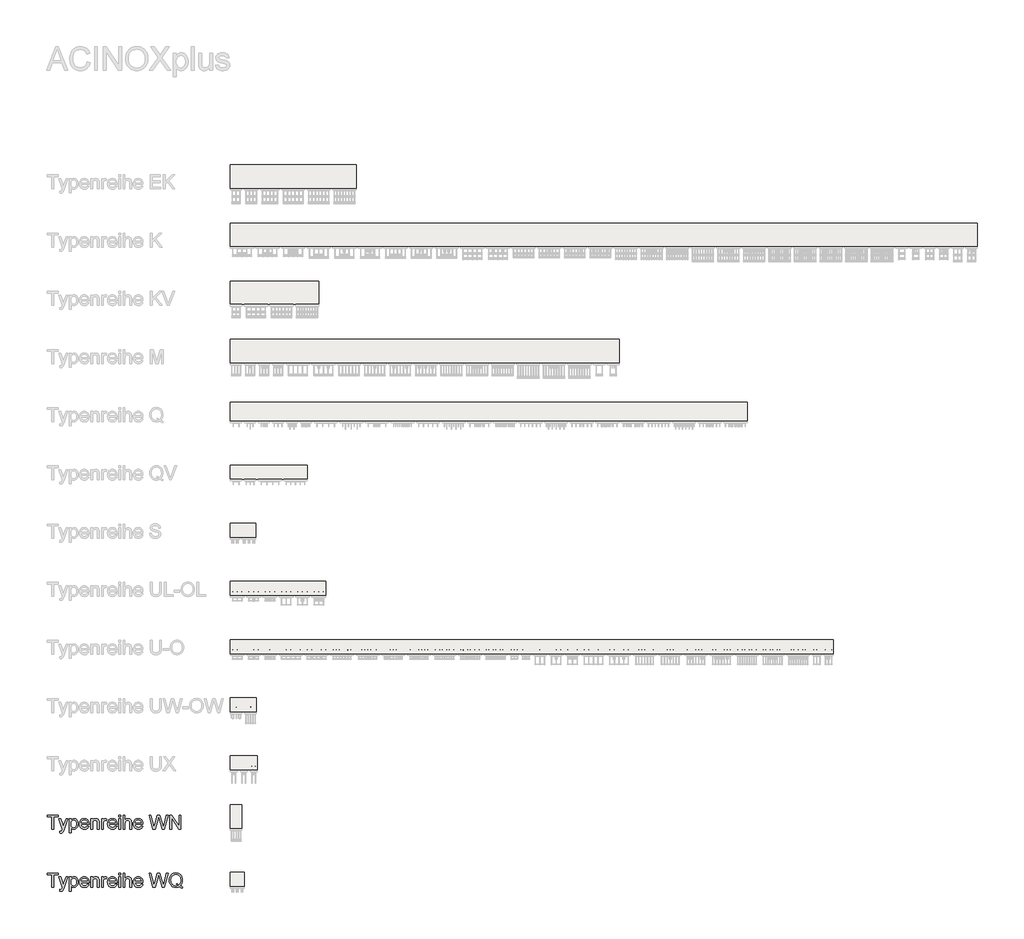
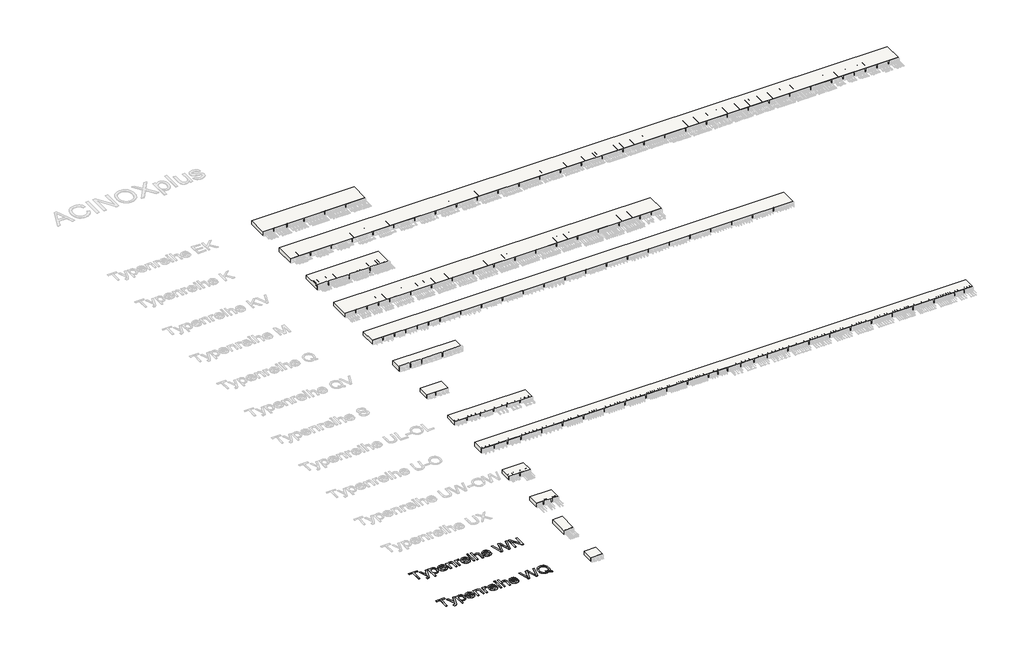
# Not in any storey, part 1 of 7: 13 slabs, 2 proxies.
"""IFC4 building model written with IfcOpenShell, lengths in millimetres."""

import ifcopenshell
import ifcopenshell.guid

model = None  # the IFC model being written
_history = None  # IfcOwnerHistory: only IFC2X3 demands one
_inside = {}  # id of a spatial element -> (the spatial element, [elements in it])
_under = {}  # id of a project, library or spatial element -> (it, [spatial elements below it])
_declared = {}  # id of a project -> (the project, [libraries it declares])
_typed = {}  # id of a type object -> (the type object, [elements of that type])
_made_of = {}  # id of a material, layer set ... -> (it, [elements and type objects made of it])


def new_model(schema):
    """Start an empty IFC model of exactly this schema.

    Asked for "IFC4X3", IfcOpenShell would pick the latest addendum, in which some entities
    have other attributes; the version numbers below select the first issue.
    IFC2X3 requires an IfcOwnerHistory on every rooted entity: one is made here for all.
    """
    global model, _history
    if schema == "IFC4X3":
        model = ifcopenshell.file(schema_version=(4, 3, 0, 0))
    else:
        model = ifcopenshell.file(schema=schema)
    _inside.clear()
    _under.clear()
    _declared.clear()
    _typed.clear()
    _made_of.clear()
    _history = None
    if model.schema == "IFC2X3":
        org = make("IfcOrganization", Name="unknown")
        user = make(
            "IfcPersonAndOrganization",
            ThePerson=make("IfcPerson", FamilyName="unknown"),
            TheOrganization=org,
        )
        app = make(
            "IfcApplication",
            ApplicationDeveloper=org,
            Version="unknown",
            ApplicationFullName="unknown",
            ApplicationIdentifier="unknown",
        )
        _history = make(
            "IfcOwnerHistory",
            OwningUser=user,
            OwningApplication=app,
            ChangeAction="ADDED",
            CreationDate=0,
        )
    return model


def make(cls, **values):
    """One entity of the class cls with the attributes given. An attribute that is None is left unset."""
    return model.create_entity(
        cls, **{name: value for name, value in values.items() if value is not None}
    )


def rooted(cls, **values):
    """An entity with a GlobalId (a new one), such as an element, a storey or a relation."""
    return make(cls, GlobalId=ifcopenshell.guid.new(), OwnerHistory=_history, **values)


def si_unit(unit_type, name, prefix=None):
    """IfcSIUnit, for example si_unit("LENGTHUNIT", "METRE", prefix="MILLI")."""
    return make("IfcSIUnit", UnitType=unit_type, Prefix=prefix, Name=name)


def assignment(units):
    """IfcUnitAssignment: the units of a project."""
    return None if units is None else make("IfcUnitAssignment", Units=units)


def point(xyz):
    """IfcCartesianPoint."""
    return None if xyz is None else make("IfcCartesianPoint", Coordinates=xyz)


def direction(xyz):
    """IfcDirection."""
    return None if xyz is None else make("IfcDirection", DirectionRatios=xyz)


def frame(location, z_axis=None, x_axis=None):
    """IfcAxis2Placement3D, a coordinate frame: its origin and axes. An axis left out is left unset."""
    return make(
        "IfcAxis2Placement3D",
        Location=point(location),
        Axis=direction(z_axis),
        RefDirection=direction(x_axis),
    )


def origin():
    """The frame at (0, 0, 0) with its axes left unset."""
    return frame((0.0, 0.0, 0.0))


def origin_with_axes():
    """The frame at (0, 0, 0) with the z axis (0, 0, 1) and the x axis (1, 0, 0) written out."""
    return frame((0.0, 0.0, 0.0), z_axis=(0.0, 0.0, 1.0), x_axis=(1.0, 0.0, 0.0))


def place(relative_to, where):
    """IfcLocalPlacement: puts the frame where relative to a parent placement (None: the world)."""
    return make(
        "IfcLocalPlacement", PlacementRelTo=relative_to, RelativePlacement=where
    )


def context(
    kind, dimensions, precision=None, world=None, true_north=None, identifier=None
):
    """IfcGeometricRepresentationContext, for example the 3D "Model" context."""
    return make(
        "IfcGeometricRepresentationContext",
        ContextIdentifier=identifier,
        ContextType=kind,
        CoordinateSpaceDimension=dimensions,
        Precision=precision,
        WorldCoordinateSystem=world,
        TrueNorth=true_north,
    )


def project(units=None, contexts=None):
    """IfcProject with its units and contexts."""
    return rooted(
        "IfcProject",
        Name="project",
        RepresentationContexts=contexts,
        UnitsInContext=assignment(units),
    )


def spatial(cls, under=None, at=None, **own):
    """A site, building, storey or space (cls), placed at a placement, below another one or the project."""
    s = rooted(cls, ObjectPlacement=at, **own)
    if under is not None:
        _under.setdefault(under.id(), (under, []))[1].append(s)
    return s


def polyline(points):
    """IfcPolyline through the points."""
    return make("IfcPolyline", Points=[point(p) for p in points])


def outline(outer, holes=None, kind="AREA"):
    """IfcArbitraryClosedProfileDef: a profile drawn as a closed curve; with holes, ...WithVoids."""
    if holes is None:
        return make("IfcArbitraryClosedProfileDef", ProfileType=kind, OuterCurve=outer)
    return make(
        "IfcArbitraryProfileDefWithVoids",
        ProfileType=kind,
        OuterCurve=outer,
        InnerCurves=holes,
    )


def extrude(swept, where, along, depth):
    """IfcExtrudedAreaSolid: the profile swept, set in the frame where, extruded along a direction by depth."""
    return make(
        "IfcExtrudedAreaSolid",
        SweptArea=swept,
        Position=where,
        ExtrudedDirection=direction(along),
        Depth=depth,
    )


def shape(context_of_items, identifier, shape_type, items):
    """IfcShapeRepresentation: the items that make up one representation, for example the "Body"."""
    return make(
        "IfcShapeRepresentation",
        ContextOfItems=context_of_items,
        RepresentationIdentifier=identifier,
        RepresentationType=shape_type,
        Items=items,
    )


def made_of(thing, what):
    """Note that an element or type object is made of a material, layer set ...; save() writes the relation."""
    if what is not None:
        _made_of.setdefault(what.id(), (what, []))[1].append(thing)
    return thing


def element(
    cls,
    number,
    at=None,
    inside=None,
    cuts=None,
    type_object=None,
    material=None,
    context=None,
    identifier="Body",
    shape_type=None,
    held_by="IfcProductDefinitionShape",
    body=None,
    shapes=None,
    **own,
):
    """One element of the class cls, such as IfcWall. Its Tag is "e" and its number.

    at: its placement. inside: the storey or other place that contains it. cuts: it is an
    opening in that element (IfcRelVoidsElement). A single representation is given by context,
    identifier, shape_type and body (its items); several are given by shapes. held_by: the class
    of the entity that holds the representations. save() writes the other relations.
    """
    e = rooted(cls, Tag="e%d" % number, ObjectPlacement=at, **own)
    if body is not None:
        shapes = [shape(context, identifier, shape_type, body)]
    if shapes is not None:
        e.Representation = make(held_by, Representations=shapes)
    if inside is not None:
        _inside.setdefault(inside.id(), (inside, []))[1].append(e)
    if cuts is not None:
        rooted(
            "IfcRelVoidsElement", RelatingBuildingElement=cuts, RelatedOpeningElement=e
        )
    if type_object is not None:
        _typed.setdefault(type_object.id(), (type_object, []))[1].append(e)
    return made_of(e, material)


def aggregate(whole, parts):
    """IfcRelAggregates: a whole, such as a stair, and the parts it consists of."""
    return rooted("IfcRelAggregates", RelatingObject=whole, RelatedObjects=parts)


def save(model, path):
    """Write the relations noted so far, then the file.

    IfcRelAggregates (storeys below a building ...), IfcRelContainedInSpatialStructure (elements
    in a storey), IfcRelDefinesByType, IfcRelAssociatesMaterial and IfcRelDeclares: one each for
    every whole, place, type object, material and project.
    """
    for whole, parts in _under.values():
        aggregate(whole, parts)
    for where, things in _inside.values():
        rooted(
            "IfcRelContainedInSpatialStructure",
            RelatedElements=things,
            RelatingStructure=where,
        )
    for kind, things in _typed.values():
        rooted("IfcRelDefinesByType", RelatedObjects=things, RelatingType=kind)
    for what, things in _made_of.values():
        rooted("IfcRelAssociatesMaterial", RelatedObjects=things, RelatingMaterial=what)
    for by, libraries in _declared.values():
        rooted("IfcRelDeclares", RelatingContext=by, RelatedDefinitions=libraries)
    model.write(path)


model = new_model("IFC4")

# Units and contexts
model_context = context("Model", 3, world=origin())
ifc_project = project(units=[si_unit("LENGTHUNIT", "METRE", prefix="MILLI")], contexts=[model_context])

# Site, building
site = spatial("IfcSite", under=ifc_project)
building = spatial("IfcBuilding", under=site)

# Proxies
placement = place(None, origin())
element("IfcBuildingElementProxy", 1, Name="600mm Arial", ObjectType="600mm Arial", at=placement, inside=building, context=model_context, shape_type="SweptSolid", body=[
    extrude(outline(polyline([(2216.6089188, 4553.4767112), (2216.6089188, 5080.8723395), (2018.8355582, 5080.8723395), (2018.8355582, 5156.2145721), (2489.724512, 5156.2145721), (2489.724512, 5080.8723395), (2291.9511514, 5080.8723395), (2291.9511514, 4553.4767112), (2216.6089188, 4553.4767112)])), origin_with_axes(), (0.0, 0.0, 1.0), 10.0),
    extrude(outline(polyline([(2565.0667446, 4383.9566879), (2555.6489655, 4456.5030173), (2593.908693, 4449.8811414), (2614.0318381, 4451.9596747), (2629.6668229, 4458.1952745), (2641.843717, 4468.1464825), (2651.5925899, 4481.3718402), (2672.1939816, 4536.8484451), (2678.0800935, 4555.095392), (2517.9778492, 4996.1123278), (2597.4403602, 4996.1123278), (2682.3475247, 4750.3671551), (2711.9252371, 4652.0690859), (2741.5029495, 4738.8892368), (2828.7645587, 4996.1123278), (2907.6384585, 4996.1123278), (2753.5694789, 4542.8817098), (2713.5439178, 4444.5836407), (2693.0528907, 4413.2033065), (2669.8395368, 4391.4614806), (2642.8737866, 4378.7695517), (2611.1255704, 4374.5389088), (2589.3101681, 4376.8933535), (2565.0667446, 4383.9566879)])), origin_with_axes(), (0.0, 0.0, 1.0), 10.0),
    extrude(outline(polyline([(2970.0312449, 4383.9566879), (2970.0312449, 4996.1123278), (3045.3734775, 4996.1123278), (3045.3734775, 4922.2416232), (3069.9479948, 4958.6803348), (3097.465568, 4984.707986), (3129.544878, 5000.3245767), (3167.8046055, 5005.5301069), (3194.080577, 5003.709091), (3218.7562618, 4998.2460434), (3241.83166, 4989.140964), (3263.3067714, 4976.3938529), (3282.7125467, 4960.3358038), (3299.5799362, 4941.2979105), (3313.9089399, 4919.2801731), (3325.6995578, 4894.2825916), (3341.4816954, 4838.7691985), (3346.7424079, 4778.1790339), (3340.8011137, 4713.7445024), (3333.3744959, 4684.079418), (3322.9772311, 4656.1157879), (3309.7518733, 4630.5847774), (3293.840977, 4608.2175521), (3275.2445422, 4589.014112), (3253.9625688, 4572.974457), (3231.0389219, 4560.3239149), (3207.5174669, 4551.2878134), (3183.3982036, 4545.8661525), (3158.681132, 4544.0589322), (3124.0450422, 4548.8965804), (3093.1245605, 4563.4095251), (3066.6554509, 4585.3168979), (3045.3734775, 4612.3378305), (3045.3734775, 4383.9566879), (2970.0312449, 4383.9566879)]), holes=[polyline([(3045.3734775, 4771.2628524), (3047.410624, 4734.9528995), (3053.5220637, 4703.7197181), (3063.7077964, 4677.5633082), (3077.9678223, 4656.4836699), (3095.1341159, 4640.2600739), (3114.0386519, 4628.671791), (3134.6814303, 4621.7188213), (3157.0624512, 4619.4011648), (3179.7653689, 4621.8015948), (3200.7852264, 4629.0028848), (3220.1220237, 4641.0050349), (3237.775761, 4657.8080451), (3252.4864423, 4679.6510385), (3262.9940717, 4706.7731386), (3269.2986494, 4739.1743453), (3271.4001753, 4776.8546587), (3269.3492332, 4812.8519119), (3263.1964068, 4844.029911), (3252.9416962, 4870.388656), (3238.5851014, 4891.9281468), (3221.377421, 4908.6667776), (3202.569454, 4920.6229424), (3182.1612004, 4927.7966413), (3160.15266, 4930.1878743), (3138.2130975, 4927.64489), (3117.570319, 4920.0159371), (3098.2243246, 4907.3010157), (3080.1751142, 4889.5001256), (3064.9493982, 4866.8523903), (3054.0738867, 4839.596933), (3047.5485798, 4807.7337537), (3045.3734775, 4771.2628524)])]), origin_with_axes(), (0.0, 0.0, 1.0), 10.0),
    extrude(outline(polyline([(3741.4062124, 4685.3256183), (3815.276917, 4675.9078392), (3803.9507501, 4646.3209298), (3788.6606546, 4620.2472934), (3769.4066307, 4597.68693), (3746.1886783, 4578.6398397), (3719.2459207, 4563.5106927), (3688.8174812, 4552.704159), (3654.9033597, 4546.2202389), (3617.5035564, 4544.0589322), (3570.7549519, 4547.7883359), (3529.101513, 4558.9765471), (3492.5432397, 4577.6235657), (3461.080132, 4603.7293918), (3435.7790478, 4636.5674584), (3417.7068448, 4675.4111985), (3406.863523, 4720.2606123), (3403.2490824, 4771.1156996), (3406.9003112, 4823.6952337), (3417.8539976, 4870.0391681), (3436.1101416, 4910.1475026), (3461.6687432, 4944.0202373), (3493.0490774, 4970.9308053), (3528.7704192, 4990.1526395), (3568.8327684, 5001.6857401), (3613.2361252, 5005.5301069), (3656.2093408, 5001.6949371), (3695.0714751, 4990.1894277), (3729.822528, 4971.0135787), (3760.4624997, 4944.1673901), (3785.4738769, 4910.3682318), (3803.3391463, 4870.3334737), (3814.0583079, 4824.0631157), (3817.6313618, 4771.557158), (3817.1899034, 4751.2500718), (3478.591315, 4751.2500718), (3482.9553152, 4721.1849158), (3491.6327317, 4694.853762), (3504.6235647, 4672.2566104), (3521.927814, 4653.3934611), (3542.5889866, 4638.5218315), (3565.6505892, 4627.8992389), (3591.1126218, 4621.5256833), (3618.9750844, 4619.4011648), (3659.0742218, 4623.3375021), (3692.845789, 4635.1465142), (3720.2897858, 4655.5639649), (3741.4062124, 4685.3256183)]), holes=[polyline([(3478.591315, 4826.5923045), (3742.2891292, 4826.5923045), (3732.0987979, 4866.3971363), (3723.3340094, 4882.0505152), (3712.1228056, 4894.8712028), (3691.5765961, 4910.3222466), (3668.1976953, 4921.3587064), (3641.9861032, 4927.9805823), (3612.9418197, 4930.1878743), (3586.4497175, 4928.4266392), (3562.1557102, 4923.1429341), (3540.0597979, 4914.3367588), (3520.1619805, 4902.0081135), (3503.4647364, 4886.7272151), (3490.9705442, 4869.0642808), (3482.6794037, 4849.0193106), (3478.591315, 4826.5923045)])]), origin_with_axes(), (0.0, 0.0, 1.0), 10.0),
    extrude(outline(polyline([(3892.9735944, 4553.4767112), (3892.9735944, 4996.1123278), (3968.315827, 4996.1123278), (3968.315827, 4934.3081526), (3994.490631, 4965.4677576), (4025.9261474, 4987.7246183), (4062.6223765, 5001.0787348), (4104.579318, 5005.5301069), (4141.7170054, 5001.9432575), (4175.7276959, 4991.1827091), (4204.0913977, 4974.5912311), (4224.2881192, 4953.5115928), (4237.9917236, 4927.9989764), (4246.8760737, 4898.1085643), (4250.8491993, 4825.2679293), (4250.8491993, 4553.4767112), (4175.5069667, 4553.4767112), (4175.5069667, 4815.1143862), (4173.3364629, 4854.0730895), (4166.8249516, 4881.7746037), (4154.8136044, 4901.6218374), (4136.1435932, 4917.0176989), (4112.2128694, 4926.8953304), (4084.4193847, 4930.1878743), (4061.5417231, 4928.3392673), (4040.2919394, 4922.7934462), (4020.6700334, 4913.5504111), (4002.6760053, 4900.6101619), (3987.6434273, 4882.5011707), (3976.9058716, 4857.7519094), (3970.4633381, 4826.3623782), (3968.315827, 4788.332577), (3968.315827, 4553.4767112), (3892.9735944, 4553.4767112)])), origin_with_axes(), (0.0, 0.0, 1.0), 10.0),
    extrude(outline(polyline([(4354.4447691, 4553.4767112), (4354.4447691, 4996.1123278), (4420.3692227, 4996.1123278), (4420.3692227, 4930.6293327), (4444.7230107, 4968.5947546), (4467.1638125, 4990.9619799), (4489.6781906, 5001.8880752), (4514.2527078, 5005.5301069), (4551.7766713, 4999.7175714), (4589.889246, 4982.2799648), (4564.7261176, 4914.7368305), (4538.2386139, 4926.3251133), (4511.7511103, 4930.1878743), (4489.2551263, 4926.4722661), (4469.1503752, 4915.3254417), (4452.9083851, 4897.5935295), (4442.000684, 4874.1226582), (4432.8404223, 4832.036958), (4429.7870017, 4786.125285), (4429.7870017, 4553.4767112), (4354.4447691, 4553.4767112)])), origin_with_axes(), (0.0, 0.0, 1.0), 10.0),
    extrude(outline(polyline([(4946.8819342, 4685.3256183), (5020.7526388, 4675.9078392), (5009.4264719, 4646.3209298), (4994.1363764, 4620.2472934), (4974.8823525, 4597.68693), (4951.6644001, 4578.6398397), (4924.7216425, 4563.5106927), (4894.293203, 4552.704159), (4860.3790815, 4546.2202389), (4822.9792782, 4544.0589322), (4776.2306737, 4547.7883359), (4734.5772347, 4558.9765471), (4698.0189615, 4577.6235657), (4666.5558538, 4603.7293918), (4641.2547696, 4636.5674584), (4623.1825666, 4675.4111985), (4612.3392448, 4720.2606123), (4608.7248042, 4771.1156996), (4612.376033, 4823.6952337), (4623.3297194, 4870.0391681), (4641.5858634, 4910.1475026), (4667.144465, 4944.0202373), (4698.5247992, 4970.9308053), (4734.246141, 4990.1526395), (4774.3084902, 5001.6857401), (4818.711847, 5005.5301069), (4861.6850626, 5001.6949371), (4900.5471969, 4990.1894277), (4935.2982498, 4971.0135787), (4965.9382215, 4944.1673901), (4990.9495987, 4910.3682318), (5008.8148681, 4870.3334737), (5019.5340297, 4824.0631157), (5023.1070836, 4771.557158), (5022.6656252, 4751.2500718), (4684.0670368, 4751.2500718), (4688.431037, 4721.1849158), (4697.1084535, 4694.853762), (4710.0992865, 4672.2566104), (4727.4035358, 4653.3934611), (4748.0647084, 4638.5218315), (4771.126311, 4627.8992389), (4796.5883436, 4621.5256833), (4824.4508062, 4619.4011648), (4864.5499436, 4623.3375021), (4898.3215108, 4635.1465142), (4925.7655076, 4655.5639649), (4946.8819342, 4685.3256183)]), holes=[polyline([(4684.0670368, 4826.5923045), (4947.764851, 4826.5923045), (4937.5745197, 4866.3971363), (4928.8097312, 4882.0505152), (4917.5985273, 4894.8712028), (4897.0523179, 4910.3222466), (4873.6734171, 4921.3587064), (4847.461825, 4927.9805823), (4818.4175414, 4930.1878743), (4791.9254393, 4928.4266392), (4767.631432, 4923.1429341), (4745.5355197, 4914.3367588), (4725.6377023, 4902.0081135), (4708.9404582, 4886.7272151), (4696.4462659, 4869.0642808), (4688.1551255, 4849.0193106), (4684.0670368, 4826.5923045)])]), origin_with_axes(), (0.0, 0.0, 1.0), 10.0),
    extrude(outline(polyline([(5098.4493162, 5080.8723395), (5098.4493162, 5156.2145721), (5173.7915488, 5156.2145721), (5173.7915488, 5080.8723395), (5098.4493162, 5080.8723395)])), origin_with_axes(), (0.0, 0.0, 1.0), 10.0),
    extrude(outline(polyline([(5098.4493162, 4553.4767112), (5098.4493162, 4996.1123278), (5173.7915488, 4996.1123278), (5173.7915488, 4553.4767112), (5098.4493162, 4553.4767112)])), origin_with_axes(), (0.0, 0.0, 1.0), 10.0),
    extrude(outline(polyline([(5286.8048977, 4553.4767112), (5286.8048977, 5156.2145721), (5362.1471303, 5156.2145721), (5362.1471303, 4934.6024582), (5389.8210534, 4965.6333045), (5420.8978849, 4987.7981947), (5455.3776249, 5001.0971289), (5493.2602734, 5005.5301069), (5538.7672762, 5000.6924587), (5577.8731323, 4986.179514), (5608.6648553, 4963.131707), (5629.2294588, 4932.6894719), (5640.8177417, 4890.861289), (5644.6805026, 4833.6556388), (5644.6805026, 4553.4767112), (5569.33827, 4553.4767112), (5569.33827, 4825.8565405), (5567.8391509, 4851.2955804), (5563.3417935, 4873.0190122), (5555.8461978, 4891.0268359), (5545.3523639, 4905.3190514), (5532.1086121, 4916.1991614), (5516.3632627, 4923.9706686), (5498.1163157, 4928.6335729), (5477.3677712, 4930.1878743), (5445.5275845, 4925.9940195), (5415.6371724, 4913.4124553), (5390.8787141, 4893.6571922), (5374.434389, 4867.9422407), (5365.218945, 4833.7660034), (5362.1471303, 4788.6268826), (5362.1471303, 4553.4767112), (5286.8048977, 4553.4767112)])), origin_with_axes(), (0.0, 0.0, 1.0), 10.0),
    extrude(outline(polyline([(6058.1798652, 4685.3256183), (6132.0505698, 4675.9078392), (6120.7244029, 4646.3209298), (6105.4343075, 4620.2472934), (6086.1802836, 4597.68693), (6062.9623311, 4578.6398397), (6036.0195735, 4563.5106927), (6005.591134, 4552.704159), (5971.6770126, 4546.2202389), (5934.2772092, 4544.0589322), (5887.5286047, 4547.7883359), (5845.8751658, 4558.9765471), (5809.3168925, 4577.6235657), (5777.8537849, 4603.7293918), (5752.5527007, 4636.5674584), (5734.4804976, 4675.4111985), (5723.6371758, 4720.2606123), (5720.0227352, 4771.1156996), (5723.673964, 4823.6952337), (5734.6276504, 4870.0391681), (5752.8837944, 4910.1475026), (5778.4423961, 4944.0202373), (5809.8227303, 4970.9308053), (5845.544072, 4990.1526395), (5885.6064213, 5001.6857401), (5930.0097781, 5005.5301069), (5972.9829936, 5001.6949371), (6011.8451279, 4990.1894277), (6046.5961809, 4971.0135787), (6077.2361525, 4944.1673901), (6102.2475297, 4910.3682318), (6120.1127991, 4870.3334737), (6130.8319607, 4824.0631157), (6134.4050146, 4771.557158), (6133.9635562, 4751.2500718), (5795.3649678, 4751.2500718), (5799.728968, 4721.1849158), (5808.4063846, 4694.853762), (5821.3972175, 4672.2566104), (5838.7014669, 4653.3934611), (5859.3626394, 4638.5218315), (5882.424242, 4627.8992389), (5907.8862746, 4621.5256833), (5935.7487372, 4619.4011648), (5975.8478747, 4623.3375021), (6009.6194418, 4635.1465142), (6037.0634387, 4655.5639649), (6058.1798652, 4685.3256183)]), holes=[polyline([(5795.3649678, 4826.5923045), (6059.062782, 4826.5923045), (6048.8724507, 4866.3971363), (6040.1076622, 4882.0505152), (6028.8964584, 4894.8712028), (6008.3502489, 4910.3222466), (5984.9713482, 4921.3587064), (5958.759756, 4927.9805823), (5929.7154725, 4930.1878743), (5903.2233703, 4928.4266392), (5878.929363, 4923.1429341), (5856.8334507, 4914.3367588), (5836.9356333, 4902.0081135), (5820.2383892, 4886.7272151), (5807.744197, 4869.0642808), (5799.4530565, 4849.0193106), (5795.3649678, 4826.5923045)])]), origin_with_axes(), (0.0, 0.0, 1.0), 10.0),
    extrude(outline(polyline([(6562.4725042, 4553.4767112), (6398.1028287, 5156.2145721), (6475.7995061, 5156.2145721), (6571.1545193, 4760.0792397), (6600.5850789, 4637.7952645), (6632.0757777, 4745.9525711), (6751.5638497, 5156.2145721), (6863.547129, 5156.2145721), (6950.3672799, 4858.8187672), (6987.5601496, 4748.4541687), (7014.9673583, 4637.7952645), (7043.5150011, 4756.5475726), (7139.752931, 5156.2145721), (7217.4496084, 5156.2145721), (7052.9327802, 4553.4767112), (6972.4401996, 4553.4767112), (6827.9361519, 5018.4795531), (6807.7762186, 5083.3739371), (6785.1146877, 5005.2358013), (6653.4129334, 4553.4767112), (6562.4725042, 4553.4767112)])), origin_with_axes(), (0.0, 0.0, 1.0), 10.0),
    extrude(outline(polyline([(7292.791841, 4553.4767112), (7292.791841, 5156.2145721), (7373.4315744, 5156.2145721), (7688.3385622, 4678.7037424), (7688.3385622, 5156.2145721), (7763.6807948, 5156.2145721), (7763.6807948, 4553.4767112), (7683.0410615, 4553.4767112), (7368.1340736, 5031.1346938), (7368.1340736, 4553.4767112), (7292.791841, 4553.4767112)])), origin_with_axes(), (0.0, 0.0, 1.0), 10.0),
])
element("IfcBuildingElementProxy", 2, Name="600mm Arial", ObjectType="600mm Arial", at=placement, inside=building, context=model_context, shape_type="SweptSolid", body=[
    extrude(outline(polyline([(2216.6089188, 2053.4767112), (2216.6089188, 2580.8723395), (2018.8355582, 2580.8723395), (2018.8355582, 2656.2145721), (2489.724512, 2656.2145721), (2489.724512, 2580.8723395), (2291.9511514, 2580.8723395), (2291.9511514, 2053.4767112), (2216.6089188, 2053.4767112)])), origin_with_axes(), (0.0, 0.0, 1.0), 10.0),
    extrude(outline(polyline([(2565.0667446, 1883.9566879), (2555.6489655, 1956.5030173), (2593.908693, 1949.8811414), (2614.0318381, 1951.9596747), (2629.6668229, 1958.1952745), (2641.843717, 1968.1464825), (2651.5925899, 1981.3718402), (2672.1939816, 2036.8484451), (2678.0800935, 2055.095392), (2517.9778492, 2496.1123278), (2597.4403602, 2496.1123278), (2682.3475247, 2250.3671551), (2711.9252371, 2152.0690859), (2741.5029495, 2238.8892368), (2828.7645587, 2496.1123278), (2907.6384585, 2496.1123278), (2753.5694789, 2042.8817098), (2713.5439178, 1944.5836407), (2693.0528907, 1913.2033065), (2669.8395368, 1891.4614806), (2642.8737866, 1878.7695517), (2611.1255704, 1874.5389088), (2589.3101681, 1876.8933535), (2565.0667446, 1883.9566879)])), origin_with_axes(), (0.0, 0.0, 1.0), 10.0),
    extrude(outline(polyline([(2970.0312449, 1883.9566879), (2970.0312449, 2496.1123278), (3045.3734775, 2496.1123278), (3045.3734775, 2422.2416232), (3069.9479948, 2458.6803348), (3097.465568, 2484.707986), (3129.544878, 2500.3245767), (3167.8046055, 2505.5301069), (3194.080577, 2503.709091), (3218.7562618, 2498.2460434), (3241.83166, 2489.140964), (3263.3067714, 2476.3938529), (3282.7125467, 2460.3358038), (3299.5799362, 2441.2979105), (3313.9089399, 2419.2801731), (3325.6995578, 2394.2825916), (3341.4816954, 2338.7691985), (3346.7424079, 2278.1790339), (3340.8011137, 2213.7445024), (3333.3744959, 2184.079418), (3322.9772311, 2156.1157879), (3309.7518733, 2130.5847774), (3293.840977, 2108.2175521), (3275.2445422, 2089.014112), (3253.9625688, 2072.974457), (3231.0389219, 2060.3239149), (3207.5174669, 2051.2878134), (3183.3982036, 2045.8661525), (3158.681132, 2044.0589322), (3124.0450422, 2048.8965804), (3093.1245605, 2063.4095251), (3066.6554509, 2085.3168979), (3045.3734775, 2112.3378305), (3045.3734775, 1883.9566879), (2970.0312449, 1883.9566879)]), holes=[polyline([(3045.3734775, 2271.2628524), (3047.410624, 2234.9528995), (3053.5220637, 2203.7197181), (3063.7077964, 2177.5633082), (3077.9678223, 2156.4836699), (3095.1341159, 2140.2600739), (3114.0386519, 2128.671791), (3134.6814303, 2121.7188213), (3157.0624512, 2119.4011648), (3179.7653689, 2121.8015948), (3200.7852264, 2129.0028848), (3220.1220237, 2141.0050349), (3237.775761, 2157.8080451), (3252.4864423, 2179.6510385), (3262.9940717, 2206.7731386), (3269.2986494, 2239.1743453), (3271.4001753, 2276.8546587), (3269.3492332, 2312.8519119), (3263.1964068, 2344.029911), (3252.9416962, 2370.388656), (3238.5851014, 2391.9281468), (3221.377421, 2408.6667776), (3202.569454, 2420.6229424), (3182.1612004, 2427.7966413), (3160.15266, 2430.1878743), (3138.2130975, 2427.64489), (3117.570319, 2420.0159371), (3098.2243246, 2407.3010157), (3080.1751142, 2389.5001256), (3064.9493982, 2366.8523903), (3054.0738867, 2339.596933), (3047.5485798, 2307.7337537), (3045.3734775, 2271.2628524)])]), origin_with_axes(), (0.0, 0.0, 1.0), 10.0),
    extrude(outline(polyline([(3741.4062124, 2185.3256183), (3815.276917, 2175.9078392), (3803.9507501, 2146.3209298), (3788.6606546, 2120.2472934), (3769.4066307, 2097.68693), (3746.1886783, 2078.6398397), (3719.2459207, 2063.5106927), (3688.8174812, 2052.704159), (3654.9033597, 2046.2202389), (3617.5035564, 2044.0589322), (3570.7549519, 2047.7883359), (3529.101513, 2058.9765471), (3492.5432397, 2077.6235657), (3461.080132, 2103.7293918), (3435.7790478, 2136.5674584), (3417.7068448, 2175.4111985), (3406.863523, 2220.2606123), (3403.2490824, 2271.1156996), (3406.9003112, 2323.6952337), (3417.8539976, 2370.0391681), (3436.1101416, 2410.1475026), (3461.6687432, 2444.0202373), (3493.0490774, 2470.9308053), (3528.7704192, 2490.1526395), (3568.8327684, 2501.6857401), (3613.2361252, 2505.5301069), (3656.2093408, 2501.6949371), (3695.0714751, 2490.1894277), (3729.822528, 2471.0135787), (3760.4624997, 2444.1673901), (3785.4738769, 2410.3682318), (3803.3391463, 2370.3334737), (3814.0583079, 2324.0631157), (3817.6313618, 2271.557158), (3817.1899034, 2251.2500718), (3478.591315, 2251.2500718), (3482.9553152, 2221.1849158), (3491.6327317, 2194.853762), (3504.6235647, 2172.2566104), (3521.927814, 2153.3934611), (3542.5889866, 2138.5218315), (3565.6505892, 2127.8992389), (3591.1126218, 2121.5256833), (3618.9750844, 2119.4011648), (3659.0742218, 2123.3375021), (3692.845789, 2135.1465142), (3720.2897858, 2155.5639649), (3741.4062124, 2185.3256183)]), holes=[polyline([(3478.591315, 2326.5923045), (3742.2891292, 2326.5923045), (3732.0987979, 2366.3971363), (3723.3340094, 2382.0505152), (3712.1228056, 2394.8712028), (3691.5765961, 2410.3222466), (3668.1976953, 2421.3587064), (3641.9861032, 2427.9805823), (3612.9418197, 2430.1878743), (3586.4497175, 2428.4266392), (3562.1557102, 2423.1429341), (3540.0597979, 2414.3367588), (3520.1619805, 2402.0081135), (3503.4647364, 2386.7272151), (3490.9705442, 2369.0642808), (3482.6794037, 2349.0193106), (3478.591315, 2326.5923045)])]), origin_with_axes(), (0.0, 0.0, 1.0), 10.0),
    extrude(outline(polyline([(3892.9735944, 2053.4767112), (3892.9735944, 2496.1123278), (3968.315827, 2496.1123278), (3968.315827, 2434.3081526), (3994.490631, 2465.4677576), (4025.9261474, 2487.7246183), (4062.6223765, 2501.0787348), (4104.579318, 2505.5301069), (4141.7170054, 2501.9432575), (4175.7276959, 2491.1827091), (4204.0913977, 2474.5912311), (4224.2881192, 2453.5115928), (4237.9917236, 2427.9989764), (4246.8760737, 2398.1085643), (4250.8491993, 2325.2679293), (4250.8491993, 2053.4767112), (4175.5069667, 2053.4767112), (4175.5069667, 2315.1143862), (4173.3364629, 2354.0730895), (4166.8249516, 2381.7746037), (4154.8136044, 2401.6218374), (4136.1435932, 2417.0176989), (4112.2128694, 2426.8953304), (4084.4193847, 2430.1878743), (4061.5417231, 2428.3392673), (4040.2919394, 2422.7934462), (4020.6700334, 2413.5504111), (4002.6760053, 2400.6101619), (3987.6434273, 2382.5011707), (3976.9058716, 2357.7519094), (3970.4633381, 2326.3623782), (3968.315827, 2288.332577), (3968.315827, 2053.4767112), (3892.9735944, 2053.4767112)])), origin_with_axes(), (0.0, 0.0, 1.0), 10.0),
    extrude(outline(polyline([(4354.4447691, 2053.4767112), (4354.4447691, 2496.1123278), (4420.3692227, 2496.1123278), (4420.3692227, 2430.6293327), (4444.7230107, 2468.5947546), (4467.1638125, 2490.9619799), (4489.6781906, 2501.8880752), (4514.2527078, 2505.5301069), (4551.7766713, 2499.7175714), (4589.889246, 2482.2799648), (4564.7261176, 2414.7368305), (4538.2386139, 2426.3251133), (4511.7511103, 2430.1878743), (4489.2551263, 2426.4722661), (4469.1503752, 2415.3254417), (4452.9083851, 2397.5935295), (4442.000684, 2374.1226582), (4432.8404223, 2332.036958), (4429.7870017, 2286.125285), (4429.7870017, 2053.4767112), (4354.4447691, 2053.4767112)])), origin_with_axes(), (0.0, 0.0, 1.0), 10.0),
    extrude(outline(polyline([(4946.8819342, 2185.3256183), (5020.7526388, 2175.9078392), (5009.4264719, 2146.3209298), (4994.1363764, 2120.2472934), (4974.8823525, 2097.68693), (4951.6644001, 2078.6398397), (4924.7216425, 2063.5106927), (4894.293203, 2052.704159), (4860.3790815, 2046.2202389), (4822.9792782, 2044.0589322), (4776.2306737, 2047.7883359), (4734.5772347, 2058.9765471), (4698.0189615, 2077.6235657), (4666.5558538, 2103.7293918), (4641.2547696, 2136.5674584), (4623.1825666, 2175.4111985), (4612.3392448, 2220.2606123), (4608.7248042, 2271.1156996), (4612.376033, 2323.6952337), (4623.3297194, 2370.0391681), (4641.5858634, 2410.1475026), (4667.144465, 2444.0202373), (4698.5247992, 2470.9308053), (4734.246141, 2490.1526395), (4774.3084902, 2501.6857401), (4818.711847, 2505.5301069), (4861.6850626, 2501.6949371), (4900.5471969, 2490.1894277), (4935.2982498, 2471.0135787), (4965.9382215, 2444.1673901), (4990.9495987, 2410.3682318), (5008.8148681, 2370.3334737), (5019.5340297, 2324.0631157), (5023.1070836, 2271.557158), (5022.6656252, 2251.2500718), (4684.0670368, 2251.2500718), (4688.431037, 2221.1849158), (4697.1084535, 2194.853762), (4710.0992865, 2172.2566104), (4727.4035358, 2153.3934611), (4748.0647084, 2138.5218315), (4771.126311, 2127.8992389), (4796.5883436, 2121.5256833), (4824.4508062, 2119.4011648), (4864.5499436, 2123.3375021), (4898.3215108, 2135.1465142), (4925.7655076, 2155.5639649), (4946.8819342, 2185.3256183)]), holes=[polyline([(4684.0670368, 2326.5923045), (4947.764851, 2326.5923045), (4937.5745197, 2366.3971363), (4928.8097312, 2382.0505152), (4917.5985273, 2394.8712028), (4897.0523179, 2410.3222466), (4873.6734171, 2421.3587064), (4847.461825, 2427.9805823), (4818.4175414, 2430.1878743), (4791.9254393, 2428.4266392), (4767.631432, 2423.1429341), (4745.5355197, 2414.3367588), (4725.6377023, 2402.0081135), (4708.9404582, 2386.7272151), (4696.4462659, 2369.0642808), (4688.1551255, 2349.0193106), (4684.0670368, 2326.5923045)])]), origin_with_axes(), (0.0, 0.0, 1.0), 10.0),
    extrude(outline(polyline([(5098.4493162, 2580.8723395), (5098.4493162, 2656.2145721), (5173.7915488, 2656.2145721), (5173.7915488, 2580.8723395), (5098.4493162, 2580.8723395)])), origin_with_axes(), (0.0, 0.0, 1.0), 10.0),
    extrude(outline(polyline([(5098.4493162, 2053.4767112), (5098.4493162, 2496.1123278), (5173.7915488, 2496.1123278), (5173.7915488, 2053.4767112), (5098.4493162, 2053.4767112)])), origin_with_axes(), (0.0, 0.0, 1.0), 10.0),
    extrude(outline(polyline([(5286.8048977, 2053.4767112), (5286.8048977, 2656.2145721), (5362.1471303, 2656.2145721), (5362.1471303, 2434.6024582), (5389.8210534, 2465.6333045), (5420.8978849, 2487.7981947), (5455.3776249, 2501.0971289), (5493.2602734, 2505.5301069), (5538.7672762, 2500.6924587), (5577.8731323, 2486.179514), (5608.6648553, 2463.131707), (5629.2294588, 2432.6894719), (5640.8177417, 2390.861289), (5644.6805026, 2333.6556388), (5644.6805026, 2053.4767112), (5569.33827, 2053.4767112), (5569.33827, 2325.8565405), (5567.8391509, 2351.2955804), (5563.3417935, 2373.0190122), (5555.8461978, 2391.0268359), (5545.3523639, 2405.3190514), (5532.1086121, 2416.1991614), (5516.3632627, 2423.9706686), (5498.1163157, 2428.6335729), (5477.3677712, 2430.1878743), (5445.5275845, 2425.9940195), (5415.6371724, 2413.4124553), (5390.8787141, 2393.6571922), (5374.434389, 2367.9422407), (5365.218945, 2333.7660034), (5362.1471303, 2288.6268826), (5362.1471303, 2053.4767112), (5286.8048977, 2053.4767112)])), origin_with_axes(), (0.0, 0.0, 1.0), 10.0),
    extrude(outline(polyline([(6058.1798652, 2185.3256183), (6132.0505698, 2175.9078392), (6120.7244029, 2146.3209298), (6105.4343075, 2120.2472934), (6086.1802836, 2097.68693), (6062.9623311, 2078.6398397), (6036.0195735, 2063.5106927), (6005.591134, 2052.704159), (5971.6770126, 2046.2202389), (5934.2772092, 2044.0589322), (5887.5286047, 2047.7883359), (5845.8751658, 2058.9765471), (5809.3168925, 2077.6235657), (5777.8537849, 2103.7293918), (5752.5527007, 2136.5674584), (5734.4804976, 2175.4111985), (5723.6371758, 2220.2606123), (5720.0227352, 2271.1156996), (5723.673964, 2323.6952337), (5734.6276504, 2370.0391681), (5752.8837944, 2410.1475026), (5778.4423961, 2444.0202373), (5809.8227303, 2470.9308053), (5845.544072, 2490.1526395), (5885.6064213, 2501.6857401), (5930.0097781, 2505.5301069), (5972.9829936, 2501.6949371), (6011.8451279, 2490.1894277), (6046.5961809, 2471.0135787), (6077.2361525, 2444.1673901), (6102.2475297, 2410.3682318), (6120.1127991, 2370.3334737), (6130.8319607, 2324.0631157), (6134.4050146, 2271.557158), (6133.9635562, 2251.2500718), (5795.3649678, 2251.2500718), (5799.728968, 2221.1849158), (5808.4063846, 2194.853762), (5821.3972175, 2172.2566104), (5838.7014669, 2153.3934611), (5859.3626394, 2138.5218315), (5882.424242, 2127.8992389), (5907.8862746, 2121.5256833), (5935.7487372, 2119.4011648), (5975.8478747, 2123.3375021), (6009.6194418, 2135.1465142), (6037.0634387, 2155.5639649), (6058.1798652, 2185.3256183)]), holes=[polyline([(5795.3649678, 2326.5923045), (6059.062782, 2326.5923045), (6048.8724507, 2366.3971363), (6040.1076622, 2382.0505152), (6028.8964584, 2394.8712028), (6008.3502489, 2410.3222466), (5984.9713482, 2421.3587064), (5958.759756, 2427.9805823), (5929.7154725, 2430.1878743), (5903.2233703, 2428.4266392), (5878.929363, 2423.1429341), (5856.8334507, 2414.3367588), (5836.9356333, 2402.0081135), (5820.2383892, 2386.7272151), (5807.744197, 2369.0642808), (5799.4530565, 2349.0193106), (5795.3649678, 2326.5923045)])]), origin_with_axes(), (0.0, 0.0, 1.0), 10.0),
    extrude(outline(polyline([(6562.4725042, 2053.4767112), (6398.1028287, 2656.2145721), (6475.7995061, 2656.2145721), (6571.1545193, 2260.0792397), (6600.5850789, 2137.7952645), (6632.0757777, 2245.9525711), (6751.5638497, 2656.2145721), (6863.547129, 2656.2145721), (6950.3672799, 2358.8187672), (6987.5601496, 2248.4541687), (7014.9673583, 2137.7952645), (7043.5150011, 2256.5475726), (7139.752931, 2656.2145721), (7217.4496084, 2656.2145721), (7052.9327802, 2053.4767112), (6972.4401996, 2053.4767112), (6827.9361519, 2518.4795531), (6807.7762186, 2583.3739371), (6785.1146877, 2505.2358013), (6653.4129334, 2053.4767112), (6562.4725042, 2053.4767112)])), origin_with_axes(), (0.0, 0.0, 1.0), 10.0),
    extrude(outline(polyline([(7745.5810007, 2125.7287351), (7794.2517886, 2088.5358654), (7839.0230274, 2062.8944903), (7818.7159413, 2007.712191), (7756.5806723, 2036.5173513), (7694.6661325, 2078.1983813), (7660.6830332, 2063.2623723), (7624.9524945, 2052.5937944), (7587.4745162, 2046.1926477), (7548.2490985, 2044.0589322), (7508.7845574, 2046.519143), (7471.1778205, 2053.8997755), (7435.4288876, 2066.2008297), (7401.5377588, 2083.4223056), (7370.4747228, 2105.0997522), (7343.2100684, 2130.7687184), (7319.7437957, 2160.4292043), (7300.0759045, 2194.0812098), (7284.5282917, 2230.8556137), (7273.422854, 2269.8832949), (7266.7595913, 2311.1642533), (7264.5385038, 2354.6984889), (7266.7549928, 2398.140754), (7273.4044599, 2439.5872593), (7284.486905, 2479.0380047), (7300.0023281, 2516.4929904), (7319.6104385, 2550.7749938), (7342.9709451, 2580.7067926), (7370.0838482, 2606.2883869), (7400.9491476, 2627.5197765), (7434.6655324, 2644.1940279), (7470.3316919, 2656.1042075), (7507.9476259, 2663.2503153), (7547.5133345, 2665.6323512), (7587.4147354, 2663.195133), (7625.3019823, 2655.8834783), (7661.1750754, 2643.6973872), (7695.0340145, 2626.6368597), (7725.9315036, 2605.1893394), (7752.9202465, 2579.8422699), (7776.0002431, 2550.5956513), (7795.1714936, 2517.4494836), (7810.2362613, 2481.2315011), (7820.9968097, 2442.7694385), (7827.4531387, 2402.0632958), (7829.6052484, 2359.1130728), (7824.381324, 2289.5465875), (7808.709551, 2227.4113186), (7796.9281301, 2199.1487843), (7782.4795648, 2172.7808423), (7765.363855, 2148.3074925), (7745.5810007, 2125.7287351)]), holes=[polyline([(7568.997643, 2225.9397906), (7602.1989931, 2215.133257), (7632.3469226, 2201.9906727), (7659.4414315, 2186.5120377), (7683.4825199, 2168.6973521), (7714.4489868, 2203.6461417), (7736.5678918, 2246.3940295), (7749.8392348, 2296.9410156), (7754.2630158, 2355.2871001), (7752.6995173, 2389.5599065), (7748.0090218, 2421.5978297), (7740.1915294, 2451.4008698), (7729.2470401, 2478.9690269), (7715.2905169, 2503.9390173), (7698.436923, 2525.9475576), (7678.6862584, 2544.9946479), (7656.038523, 2561.0802882), (7631.2110869, 2573.859589), (7604.9213198, 2582.987661), (7577.1692218, 2588.4645042), (7547.9547929, 2590.2901186), (7504.9861758, 2586.5975031), (7465.8435315, 2575.5196565), (7430.52686, 2557.0565789), (7399.0361612, 2531.2082702), (7373.1556629, 2498.0299127), (7354.6695926, 2457.5766888), (7343.5779504, 2409.8485985), (7339.8807364, 2354.8456417), (7343.5365637, 2301.2774247), (7354.5040457, 2254.3218865), (7372.7831823, 2213.9790272), (7398.3739736, 2180.2488468), (7429.6485417, 2153.6279859), (7464.9790089, 2134.6130853), (7504.365375, 2123.2041449), (7547.8076401, 2119.4011648), (7589.6358229, 2123.2639257), (7628.8888318, 2134.8522086), (7590.2980105, 2154.9017773), (7549.5734736, 2168.2558937), (7568.997643, 2225.9397906)])]), origin_with_axes(), (0.0, 0.0, 1.0), 10.0),
])

# Slabs
element("IfcSlab", 3, ObjectType="STB 150", at=placement, inside=building, context=model_context, shape_type="SweptSolid", body=[
    extrude(outline(polyline([(13989.4201887, 15192.043818), (13989.4201887, 14592.043818), (9889.4201887, 14592.043818), (9889.4201887, 15192.043818), (13989.4201887, 15192.043818)])), frame((0.0, 0.0, -150.0), z_axis=(0.0, 0.0, 1.0), x_axis=(1.0, 0.0, 0.0)), (0.0, 0.0, 1.0), 150.0),
])
element("IfcSlab", 4, ObjectType="STB 200", at=placement, inside=building, context=model_context, shape_type="SweptSolid", body=[
    extrude(outline(polyline([(15289.4201887, 33092.043818), (15289.4201887, 32092.043818), (9889.4201887, 32092.043818), (9889.4201887, 33092.043818), (15289.4201887, 33092.043818)])), frame((0.0, 0.0, -200.0), z_axis=(0.0, 0.0, 1.0), x_axis=(1.0, 0.0, 0.0)), (0.0, 0.0, 1.0), 200.0),
])
element("IfcSlab", 5, ObjectType="STB 200", at=placement, inside=building, context=model_context, shape_type="SweptSolid", body=[
    extrude(outline(polyline([(41989.4201887, 30592.043818), (41989.4201887, 29592.043818), (9889.4201887, 29592.043818), (9889.4201887, 30592.043818), (41989.4201887, 30592.043818)])), frame((0.0, 0.0, -200.0), z_axis=(0.0, 0.0, 1.0), x_axis=(1.0, 0.0, 0.0)), (0.0, 0.0, 1.0), 200.0),
])
element("IfcSlab", 6, ObjectType="STB 200", at=placement, inside=building, context=model_context, shape_type="SweptSolid", body=[
    extrude(outline(polyline([(13689.4201887, 28092.043818), (13689.4201887, 27092.043818), (9889.4201887, 27092.043818), (9889.4201887, 28092.043818), (13689.4201887, 28092.043818)])), frame((0.0, 0.0, -200.0), z_axis=(0.0, 0.0, 1.0), x_axis=(1.0, 0.0, 0.0)), (0.0, 0.0, 1.0), 200.0),
])
element("IfcSlab", 7, ObjectType="STB 200", at=placement, inside=building, context=model_context, shape_type="SweptSolid", body=[
    extrude(outline(polyline([(26589.4201887, 25592.043818), (26589.4201887, 24592.043818), (9889.4201887, 24592.043818), (9889.4201887, 25592.043818), (26589.4201887, 25592.043818)])), frame((0.0, 0.0, -200.0), z_axis=(0.0, 0.0, 1.0), x_axis=(1.0, 0.0, 0.0)), (0.0, 0.0, 1.0), 200.0),
])
element("IfcSlab", 8, ObjectType="STB 200", at=placement, inside=building, context=model_context, shape_type="SweptSolid", body=[
    extrude(outline(polyline([(32089.4201887, 22892.043818), (32089.4201887, 22092.043818), (9889.4201887, 22092.043818), (9889.4201887, 22892.043818), (32089.4201887, 22892.043818)])), frame((0.0, 0.0, -200.0), z_axis=(0.0, 0.0, 1.0), x_axis=(1.0, 0.0, 0.0)), (0.0, 0.0, 1.0), 200.0),
])
element("IfcSlab", 9, ObjectType="STB 200", at=placement, inside=building, context=model_context, shape_type="SweptSolid", body=[
    extrude(outline(polyline([(13189.4201887, 20192.043818), (13189.4201887, 19592.043818), (9889.4201887, 19592.043818), (9889.4201887, 20192.043818), (13189.4201887, 20192.043818)])), frame((0.0, 0.0, -200.0), z_axis=(0.0, 0.0, 1.0), x_axis=(1.0, 0.0, 0.0)), (0.0, 0.0, 1.0), 200.0),
])
element("IfcSlab", 10, ObjectType="STB 200", at=placement, inside=building, context=model_context, shape_type="SweptSolid", body=[
    extrude(outline(polyline([(10989.4201887, 17692.043818), (10989.4201887, 17092.043818), (9889.4201887, 17092.043818), (9889.4201887, 17692.043818), (10989.4201887, 17692.043818)])), frame((0.0, 0.0, -200.0), z_axis=(0.0, 0.0, 1.0), x_axis=(1.0, 0.0, 0.0)), (0.0, 0.0, 1.0), 200.0),
])
element("IfcSlab", 11, ObjectType="STB 200", at=placement, inside=building, context=model_context, shape_type="SweptSolid", body=[
    extrude(outline(polyline([(35790.3351296, 12692.043818), (35790.3351296, 12092.043818), (9889.4201887, 12092.043818), (9889.4201887, 12692.043818), (35790.3351296, 12692.043818)])), frame((0.0, 0.0, -200.0), z_axis=(0.0, 0.0, 1.0), x_axis=(1.0, 0.0, 0.0)), (0.0, 0.0, 1.0), 200.0),
])
element("IfcSlab", 12, ObjectType="STB 200", at=placement, inside=building, context=model_context, shape_type="SweptSolid", body=[
    extrude(outline(polyline([(11009.4201887, 10192.043818), (11009.4201887, 9592.043818), (9889.4201887, 9592.043818), (9889.4201887, 10192.043818), (11009.4201887, 10192.043818)])), frame((0.0, 0.0, -200.0), z_axis=(0.0, 0.0, 1.0), x_axis=(1.0, 0.0, 0.0)), (0.0, 0.0, 1.0), 200.0),
])
element("IfcSlab", 13, ObjectType="STB 200", at=placement, inside=building, context=model_context, shape_type="SweptSolid", body=[
    extrude(outline(polyline([(11039.4201887, 7692.043818), (11039.4201887, 7092.043818), (9889.4201887, 7092.043818), (9889.4201887, 7692.043818), (11039.4201887, 7692.043818)])), frame((0.0, 0.0, -200.0), z_axis=(0.0, 0.0, 1.0), x_axis=(1.0, 0.0, 0.0)), (0.0, 0.0, 1.0), 200.0),
])
element("IfcSlab", 14, ObjectType="STB 200", at=placement, inside=building, context=model_context, shape_type="SweptSolid", body=[
    extrude(outline(polyline([(10389.4201887, 5592.043818), (10389.4201887, 4592.043818), (9889.4201887, 4592.043818), (9889.4201887, 5592.043818), (10389.4201887, 5592.043818)])), frame((0.0, 0.0, -200.0), z_axis=(0.0, 0.0, 1.0), x_axis=(1.0, 0.0, 0.0)), (0.0, 0.0, 1.0), 200.0),
])
element("IfcSlab", 15, ObjectType="STB 200", at=placement, inside=building, context=model_context, shape_type="SweptSolid", body=[
    extrude(outline(polyline([(10489.4201887, 2692.043818), (10489.4201887, 2092.043818), (9889.4201887, 2092.043818), (9889.4201887, 2692.043818), (10489.4201887, 2692.043818)])), frame((0.0, 0.0, -200.0), z_axis=(0.0, 0.0, 1.0), x_axis=(1.0, 0.0, 0.0)), (0.0, 0.0, 1.0), 200.0),
])

save(model, "model.ifc")
